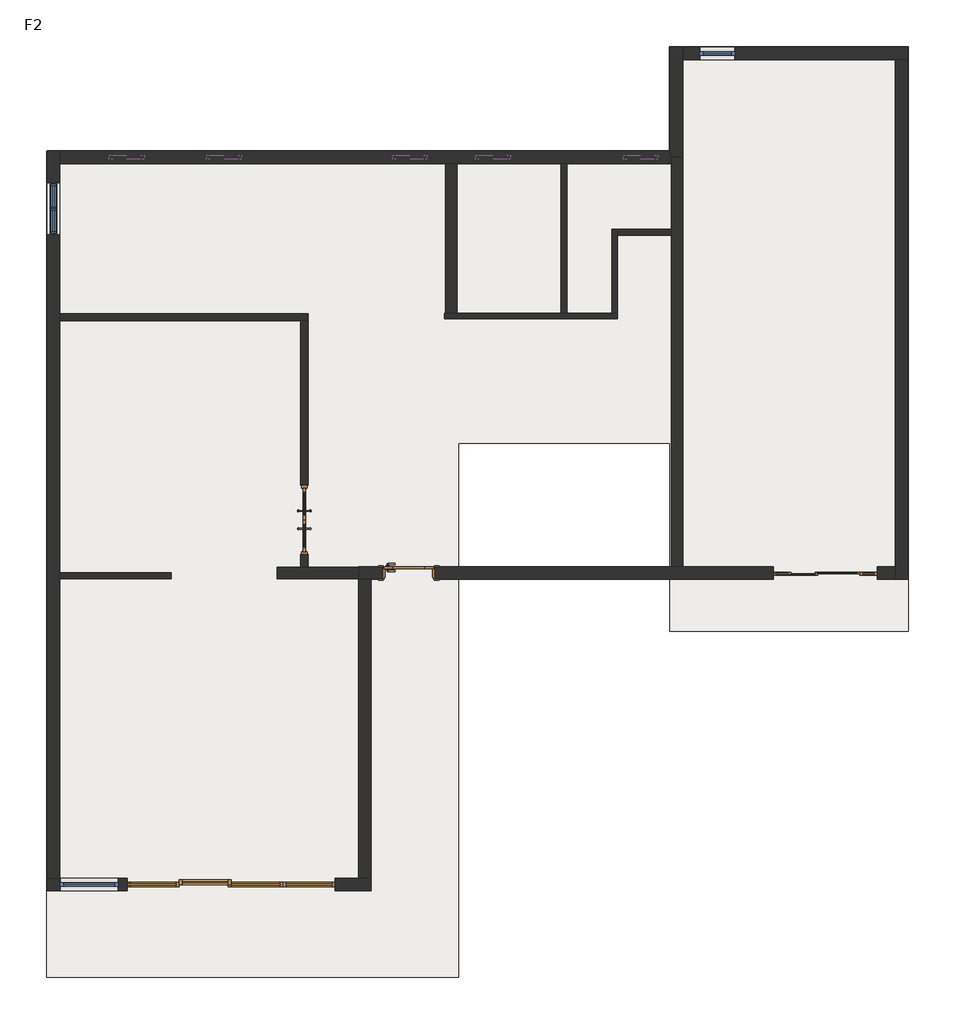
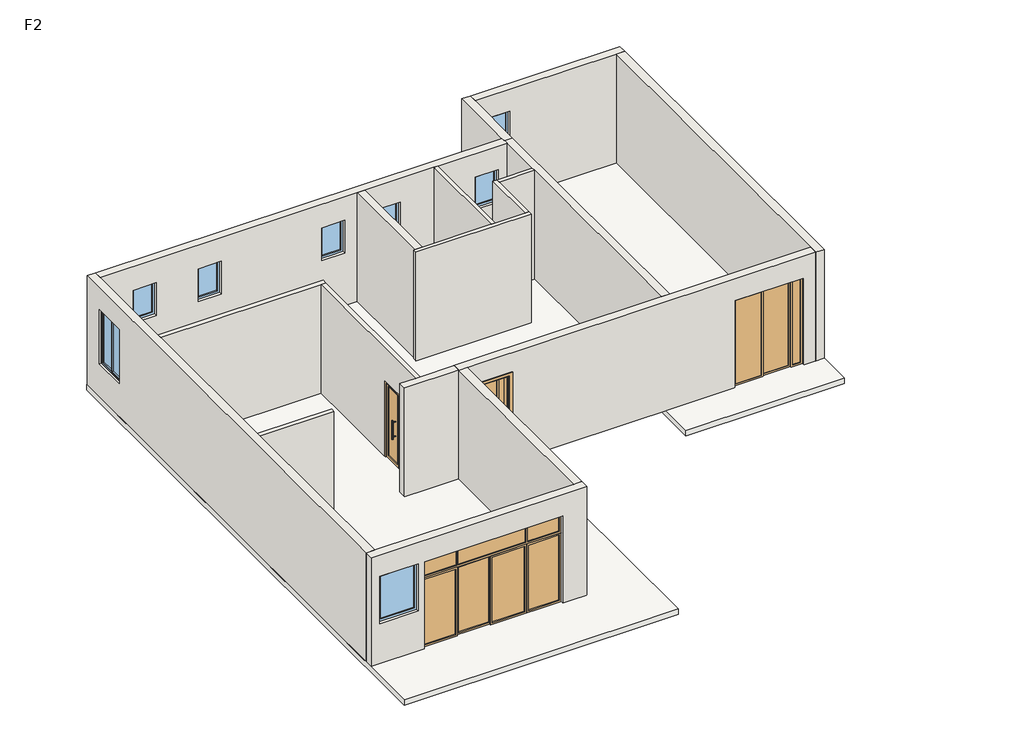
# One storey: 18 walls, 8 windows, 4 doors, 1 slab.
"""IFC4 building model written with IfcOpenShell, lengths in millimetres."""

from ifc_helpers import new_model, si_unit, frame, origin, place, context, project, spatial, polyline, outline, extrude, faceted_brep, transform, mapped, element, save
from components import door_0924_8836e307, door_1200_x_2100mm_28484c29, ym3267_137c07f3, ym3627_ym3624_cbced519, c0615_c0609_9743c050, c0615_c0615_013a5557, c0615_c1023_ef9932f1, c0915_c0915_c0da6e5c

model = new_model("IFC4")

# Units and contexts
model_context = context("Model", 3, world=origin())
ifc_project = project(units=[si_unit("LENGTHUNIT", "METRE", prefix="MILLI")], contexts=[model_context])

# Site, building, storey
site = spatial("IfcSite", under=ifc_project)
building = spatial("IfcBuilding", under=site)
storey = spatial("IfcBuildingStorey", under=building, Name="F2", Elevation=3300.0)

# Doors
placement = place(None, origin())
door_0924_shape = door_0924_8836e307(model_context)
element("IfcDoor", 1, ObjectType="单扇平开门-木门 : 0924", at=placement, inside=storey, context=model_context, shape_type="MappedRepresentation", body=[
    mapped(door_0924_shape, transform((-10695.9782681, -8531.0286905, 3300.0), x_axis=(1.0, 0.0, 0.0), y_axis=(0.0, 1.0, 0.0), z_axis=(0.0, 0.0, 1.0))),
])
door_1200_x_2100mm_shape = door_1200_x_2100mm_28484c29(model_context)
element("IfcDoor", 2, ObjectType="双面嵌板玻璃门 : 1200 x 2100mm", at=placement, inside=storey, context=model_context, shape_type="MappedRepresentation", body=[
    mapped(door_1200_x_2100mm_shape, transform((-12505.9782681, -7611.0286905, 3300.0), x_axis=(0.0, -1.0, 0.0), y_axis=(1.0, 0.0, 0.0), z_axis=(0.0, 0.0, 1.0))),
])
ym3267_shape = ym3267_137c07f3(model_context)
element("IfcDoor", 3, ObjectType="移门-推拉门 : YM3267", at=placement, inside=storey, context=model_context, shape_type="MappedRepresentation", body=[
    mapped(ym3267_shape, transform((-3475.9782681, -8531.0286905, 3300.0), x_axis=(-1.0, 0.0, 0.0), y_axis=(0.0, -1.0, 0.0), z_axis=(0.0, 0.0, 1.0))),
])
ym3627_ym3624_shape = ym3627_ym3624_cbced519(model_context)
element("IfcDoor", 4, ObjectType="YM3627 : YM3624", at=placement, inside=storey, context=model_context, shape_type="MappedRepresentation", body=[
    mapped(ym3627_ym3624_shape, transform((-13775.9782681, -13931.0286905, 3300.0), x_axis=(-1.0, 0.0, 0.0), y_axis=(0.0, -1.0, 0.0), z_axis=(0.0, 0.0, 1.0))),
])

# Slab
element("IfcSlab", 5, ObjectType="常规 - 150mm", at=placement, inside=storey, context=model_context, shape_type="SweptSolid", body=[
    extrude(outline(polyline([(-9835.9782681, -15541.0286905), (-16975.9782681, -15541.0286905), (-16975.9782681, -1221.0286905), (-6175.9782681, -1221.0286905), (-6175.9782681, 588.9713095), (-2035.9782681, 588.9713095), (-2035.9782681, -9541.0286905), (-6165.9782681, -9541.0286905), (-6165.9782681, -6281.0286905), (-9835.9782681, -6281.0286905), (-9835.9782681, -15541.0286905)])), frame((0.0, 0.0, 3150.0), z_axis=(0.0, 0.0, 1.0), x_axis=(1.0, 0.0, 0.0)), (0.0, 0.0, 1.0), 150.0),
])

# Walls
element("IfcWall", 6, ObjectType="内部 - 砌块墙 100", at=placement, inside=storey, context=model_context, shape_type="Brep", body=[
    faceted_brep([(-16745.9782681, -4163.0286905, 3300.0), (-12567.9782681, -4163.0286905, 3300.0), (-12443.9782681, -4163.0286905, 3300.0), (-12443.9782681, -4163.0286905, 6300.0), (-12567.9782681, -4163.0286905, 6300.0), (-16745.9782681, -4163.0286905, 6300.0), (-16745.9782681, -4039.0286905, 3300.0), (-16745.9782681, -4039.0286905, 6300.0), (-12443.9782681, -4039.0286905, 6300.0), (-12443.9782681, -4039.0286905, 3300.0)], [[[0, 1, 2, 3, 4, 5]], [[6, 7, 8, 9]], [[2, 1, 0, 6, 9]], [[5, 4, 3, 8, 7]], [[0, 5, 7, 6]], [[3, 2, 9, 8]]]),
])
element("IfcWall", 7, ObjectType="内部 - 砌块墙 100", at=placement, inside=storey, context=model_context, shape_type="SweptSolid", body=[
    extrude(outline(polyline([(-8431.0286905, 6300.0), (-4163.0286905, 6300.0), (-4163.0286905, 3300.0), (-7011.0286905, 3300.0), (-7011.0286905, 5400.0), (-8211.0286905, 5400.0), (-8211.0286905, 3300.0), (-8431.0286905, 3300.0), (-8431.0286905, 6300.0)])), frame((-12567.9782681, 0.0, 0.0), z_axis=(1.0, 0.0, 0.0), x_axis=(0.0, 1.0, 0.0)), (0.0, 0.0, 1.0), 124.0),
])
element("IfcWall", 8, ObjectType="常规 - 200mm", at=placement, inside=storey, context=model_context, shape_type="Brep", body=[
    faceted_brep([(-11565.9782681, -8431.0286905, 3300.0), (-12443.9782681, -8431.0286905, 3300.0), (-12567.9782681, -8431.0286905, 3300.0), (-12975.9782681, -8431.0286905, 3300.0), (-12975.9782681, -8431.0286905, 6300.0), (-12567.9782681, -8431.0286905, 6300.0), (-12443.9782681, -8431.0286905, 6300.0), (-11565.9782681, -8431.0286905, 6300.0), (-11565.9782681, -8631.0286905, 3300.0), (-11565.9782681, -8631.0286905, 6300.0), (-12975.9782681, -8631.0286905, 6300.0), (-12975.9782681, -8631.0286905, 3300.0)], [[[0, 1, 2, 3, 4, 5, 6, 7]], [[8, 9, 10, 11]], [[3, 2, 1, 0, 8, 11]], [[4, 3, 11, 10]], [[7, 6, 5, 4, 10, 9]], [[0, 7, 9, 8]]]),
])
element("IfcWall", 9, ObjectType="常规 - 100mm 砌体", at=placement, inside=storey, context=model_context, shape_type="SweptSolid", body=[
    extrude(outline(polyline([(-16745.9782681, -8531.0286905), (-14815.9782681, -8531.0286905), (-14815.9782681, -8631.0286905), (-16745.9782681, -8631.0286905), (-16745.9782681, -8531.0286905)])), frame((0.0, 0.0, 3300.0), z_axis=(0.0, 0.0, 1.0), x_axis=(1.0, 0.0, 0.0)), (0.0, 0.0, 1.0), 3000.0),
])
element("IfcWall", 10, ObjectType="常规 - 200mm", at=placement, inside=storey, context=model_context, shape_type="SweptSolid", body=[
    extrude(outline(polyline([(-10055.9782681, -4031.0286905), (-10055.9782681, -1441.0286905), (-9855.9782681, -1441.0286905), (-9855.9782681, -4031.0286905), (-10055.9782681, -4031.0286905)])), frame((0.0, 0.0, 3300.0), z_axis=(0.0, 0.0, 1.0), x_axis=(1.0, 0.0, 0.0)), (0.0, 0.0, 1.0), 3000.0),
])
element("IfcWall", 11, ObjectType="常规 - 100mm 砌体", at=placement, inside=storey, context=model_context, shape_type="Brep", body=[
    faceted_brep([(-10075.9782681, -4131.0286905, 3300.0), (-7075.9782681, -4131.0286905, 3300.0), (-7075.9782681, -4131.0286905, 6300.0), (-10075.9782681, -4131.0286905, 6300.0), (-10075.9782681, -4031.0286905, 3300.0), (-10075.9782681, -4031.0286905, 6300.0), (-8055.9782681, -4031.0286905, 6300.0), (-7955.9782681, -4031.0286905, 6300.0), (-7175.9782681, -4031.0286905, 6300.0), (-7075.9782681, -4031.0286905, 6300.0), (-7075.9782681, -4031.0286905, 3300.0), (-7175.9782681, -4031.0286905, 3300.0), (-7955.9782681, -4031.0286905, 3300.0), (-8055.9782681, -4031.0286905, 3300.0)], [[[0, 1, 2, 3]], [[4, 5, 6, 7, 8, 9, 10, 11, 12, 13]], [[1, 0, 4, 13, 12, 11, 10]], [[3, 2, 9, 8, 7, 6, 5]], [[0, 3, 5, 4]], [[2, 1, 10, 9]]]),
])
element("IfcWall", 12, ObjectType="常规 - 100mm 砌体", at=placement, inside=storey, context=model_context, shape_type="Brep", body=[
    faceted_brep([(-7075.9782681, -4031.0286905, 3300.0), (-7075.9782681, -2681.0286905, 3300.0), (-7075.9782681, -2581.0286905, 3300.0), (-7075.9782681, -2581.0286905, 6300.0), (-7075.9782681, -2681.0286905, 6300.0), (-7075.9782681, -4031.0286905, 6300.0), (-7175.9782681, -4031.0286905, 3300.0), (-7175.9782681, -4031.0286905, 6300.0), (-7175.9782681, -2581.0286905, 6300.0), (-7175.9782681, -2581.0286905, 3300.0)], [[[0, 1, 2, 3, 4, 5]], [[6, 7, 8, 9]], [[2, 1, 0, 6, 9]], [[5, 4, 3, 8, 7]], [[0, 5, 7, 6]], [[3, 2, 9, 8]]]),
])
element("IfcWall", 13, ObjectType="常规 - 100mm 砌体", at=placement, inside=storey, context=model_context, shape_type="SweptSolid", body=[
    extrude(outline(polyline([(-6145.9782681, -2681.0286905), (-7075.9782681, -2681.0286905), (-7075.9782681, -2581.0286905), (-6145.9782681, -2581.0286905), (-6145.9782681, -2681.0286905)])), frame((0.0, 0.0, 3300.0), z_axis=(0.0, 0.0, 1.0), x_axis=(1.0, 0.0, 0.0)), (0.0, 0.0, 1.0), 3000.0),
])
element("IfcWall", 14, ObjectType="常规 - 200mm", at=placement, inside=storey, context=model_context, shape_type="Brep", body=[
    faceted_brep([(-5945.9782681, -8421.0286905, 3300.0), (-5945.9782681, -1331.0286905, 3300.0), (-5945.9782681, -1331.0286905, 6300.0), (-5945.9782681, -8421.0286905, 6300.0), (-6145.9782681, -8421.0286905, 3300.0), (-6145.9782681, -8421.0286905, 6300.0), (-6145.9782681, -2681.0286905, 6300.0), (-6145.9782681, -2581.0286905, 6300.0), (-6145.9782681, -1441.0286905, 6300.0), (-6145.9782681, -1331.0286905, 6300.0), (-6145.9782681, -1331.0286905, 3300.0), (-6145.9782681, -1441.0286905, 3300.0), (-6145.9782681, -2581.0286905, 3300.0), (-6145.9782681, -2681.0286905, 3300.0)], [[[0, 1, 2, 3]], [[4, 5, 6, 7, 8, 9, 10, 11, 12, 13]], [[1, 0, 4, 13, 12, 11, 10]], [[2, 1, 10, 9]], [[3, 2, 9, 8, 7, 6, 5]], [[0, 3, 5, 4]]]),
])
element("IfcWall", 15, ObjectType="常规 - 100mm 砌体", at=placement, inside=storey, context=model_context, shape_type="SweptSolid", body=[
    extrude(outline(polyline([(-7955.9782681, -1441.0286905), (-7955.9782681, -4031.0286905), (-8055.9782681, -4031.0286905), (-8055.9782681, -1441.0286905), (-7955.9782681, -1441.0286905)])), frame((0.0, 0.0, 3300.0), z_axis=(0.0, 0.0, 1.0), x_axis=(1.0, 0.0, 0.0)), (0.0, 0.0, 1.0), 3000.0),
])
element("IfcWall", 16, ObjectType="F2", at=placement, inside=storey, context=model_context, shape_type="Brep", body=[
    faceted_brep([(-16965.9782681, -13821.0286905, 6300.0), (-16745.9782681, -13821.0286905, 6300.0), (-11565.9782681, -13821.0286905, 6300.0), (-11345.9782681, -13821.0286905, 6300.0), (-11345.9782681, -13821.0286905, 3300.0), (-11565.9782681, -13821.0286905, 3300.0), (-11975.9782681, -13821.0286905, 3300.0), (-11975.9782681, -13821.0286905, 5700.0), (-15575.9782681, -13821.0286905, 5700.0), (-15575.9782681, -13821.0286905, 3300.0), (-16745.9782681, -13821.0286905, 3300.0), (-16965.9782681, -13821.0286905, 3300.0), (-16735.9782681, -13821.0286905, 4400.0), (-15735.9782681, -13821.0286905, 4400.0), (-15735.9782681, -13821.0286905, 5700.0), (-16735.9782681, -13821.0286905, 5700.0), (-11345.9782681, -14041.0286905, 6300.0), (-16965.9782681, -14041.0286905, 6300.0), (-16965.9782681, -14041.0286905, 3300.0), (-15575.9782681, -14041.0286905, 3300.0), (-15575.9782681, -14041.0286905, 5700.0), (-11975.9782681, -14041.0286905, 5700.0), (-11975.9782681, -14041.0286905, 3300.0), (-11345.9782681, -14041.0286905, 3300.0), (-16735.9782681, -14041.0286905, 4400.0), (-16735.9782681, -14041.0286905, 5700.0), (-15735.9782681, -14041.0286905, 5700.0), (-15735.9782681, -14041.0286905, 4400.0)], [[[0, 1, 2, 3, 4, 5, 6, 7, 8, 9, 10, 11], [12, 13, 14, 15]], [[16, 17, 18, 19, 20, 21, 22, 23], [24, 25, 26, 27]], [[18, 11, 10, 9, 19]], [[4, 23, 22, 6, 5]], [[3, 2, 1, 0, 17, 16]], [[0, 11, 18, 17]], [[4, 3, 16, 23]], [[21, 7, 6, 22]], [[7, 21, 20, 8]], [[8, 20, 19, 9]], [[25, 24, 12, 15]], [[26, 25, 15, 14]], [[27, 26, 14, 13]], [[24, 27, 13, 12]]]),
])
element("IfcWall", 17, ObjectType="F2", at=placement, inside=storey, context=model_context, shape_type="Brep", body=[
    faceted_brep([(-16745.9782681, -13821.0286905, 3300.0), (-16745.9782681, -8631.0286905, 3300.0), (-16745.9782681, -8531.0286905, 3300.0), (-16745.9782681, -4163.0286905, 3300.0), (-16745.9782681, -4039.0286905, 3300.0), (-16745.9782681, -1441.0286905, 3300.0), (-16745.9782681, -1221.0286905, 3300.0), (-16745.9782681, -1221.0286905, 6300.0), (-16745.9782681, -1441.0286905, 6300.0), (-16745.9782681, -4039.0286905, 6300.0), (-16745.9782681, -4163.0286905, 6300.0), (-16745.9782681, -8531.0286905, 6300.0), (-16745.9782681, -8631.0286905, 6300.0), (-16745.9782681, -13821.0286905, 6300.0), (-16745.9782681, -1771.0286905, 4200.0), (-16745.9782681, -2671.0286905, 4200.0), (-16745.9782681, -2671.0286905, 5700.0), (-16745.9782681, -1771.0286905, 5700.0), (-16965.9782681, -13821.0286905, 3300.0), (-16965.9782681, -13821.0286905, 6300.0), (-16965.9782681, -1221.0286905, 6300.0), (-16965.9782681, -1221.0286905, 3300.0), (-16965.9782681, -1771.0286905, 4200.0), (-16965.9782681, -1771.0286905, 5700.0), (-16965.9782681, -2671.0286905, 5700.0), (-16965.9782681, -2671.0286905, 4200.0)], [[[0, 1, 2, 3, 4, 5, 6, 7, 8, 9, 10, 11, 12, 13], [14, 15, 16, 17]], [[18, 19, 20, 21], [22, 23, 24, 25]], [[6, 5, 4, 3, 2, 1, 0, 18, 21]], [[13, 12, 11, 10, 9, 8, 7, 20, 19]], [[0, 13, 19, 18]], [[7, 6, 21, 20]], [[23, 22, 14, 17]], [[24, 23, 17, 16]], [[25, 24, 16, 15]], [[22, 25, 15, 14]]]),
])
element("IfcWall", 18, ObjectType="F2", at=placement, inside=storey, context=model_context, shape_type="Brep", body=[
    faceted_brep([(-16745.9782681, -1441.0286905, 3300.0), (-10055.9782681, -1441.0286905, 3300.0), (-9855.9782681, -1441.0286905, 3300.0), (-8055.9782681, -1441.0286905, 3300.0), (-7955.9782681, -1441.0286905, 3300.0), (-6145.9782681, -1441.0286905, 3300.0), (-6145.9782681, -1441.0286905, 6300.0), (-7955.9782681, -1441.0286905, 6300.0), (-8055.9782681, -1441.0286905, 6300.0), (-9855.9782681, -1441.0286905, 6300.0), (-10055.9782681, -1441.0286905, 6300.0), (-16745.9782681, -1441.0286905, 6300.0), (-15885.9782681, -1441.0286905, 4750.0), (-15885.9782681, -1441.0286905, 5650.0), (-15285.9782681, -1441.0286905, 5650.0), (-15285.9782681, -1441.0286905, 4750.0), (-14195.9782681, -1441.0286905, 4750.0), (-14195.9782681, -1441.0286905, 5650.0), (-13595.9782681, -1441.0286905, 5650.0), (-13595.9782681, -1441.0286905, 4750.0), (-10975.9782681, -1441.0286905, 4750.0), (-10975.9782681, -1441.0286905, 5650.0), (-10375.9782681, -1441.0286905, 5650.0), (-10375.9782681, -1441.0286905, 4750.0), (-9535.9782681, -1441.0286905, 4750.0), (-9535.9782681, -1441.0286905, 5650.0), (-8935.9782681, -1441.0286905, 5650.0), (-8935.9782681, -1441.0286905, 4750.0), (-6975.9782681, -1441.0286905, 4750.0), (-6975.9782681, -1441.0286905, 5650.0), (-6375.9782681, -1441.0286905, 5650.0), (-6375.9782681, -1441.0286905, 4750.0), (-16745.9782681, -1221.0286905, 3300.0), (-16745.9782681, -1221.0286905, 6300.0), (-6165.9782681, -1221.0286905, 6300.0), (-6165.9782681, -1221.0286905, 3300.0), (-15885.9782681, -1221.0286905, 4750.0), (-15285.9782681, -1221.0286905, 4750.0), (-15285.9782681, -1221.0286905, 5650.0), (-15885.9782681, -1221.0286905, 5650.0), (-14195.9782681, -1221.0286905, 4750.0), (-13595.9782681, -1221.0286905, 4750.0), (-13595.9782681, -1221.0286905, 5650.0), (-14195.9782681, -1221.0286905, 5650.0), (-10975.9782681, -1221.0286905, 4750.0), (-10375.9782681, -1221.0286905, 4750.0), (-10375.9782681, -1221.0286905, 5650.0), (-10975.9782681, -1221.0286905, 5650.0), (-9535.9782681, -1221.0286905, 4750.0), (-8935.9782681, -1221.0286905, 4750.0), (-8935.9782681, -1221.0286905, 5650.0), (-9535.9782681, -1221.0286905, 5650.0), (-6975.9782681, -1221.0286905, 4750.0), (-6375.9782681, -1221.0286905, 4750.0), (-6375.9782681, -1221.0286905, 5650.0), (-6975.9782681, -1221.0286905, 5650.0), (-6165.9782681, -1331.0286905, 3300.0), (-6145.9782681, -1331.0286905, 3300.0), (-6145.9782681, -1331.0286905, 6300.0), (-6165.9782681, -1331.0286905, 6300.0)], [[[0, 1, 2, 3, 4, 5, 6, 7, 8, 9, 10, 11], [12, 13, 14, 15], [16, 17, 18, 19], [20, 21, 22, 23], [24, 25, 26, 27], [28, 29, 30, 31]], [[32, 33, 34, 35], [36, 37, 38, 39], [40, 41, 42, 43], [44, 45, 46, 47], [48, 49, 50, 51], [52, 53, 54, 55]], [[5, 4, 3, 2, 1, 0, 32, 35, 56, 57]], [[11, 10, 9, 8, 7, 6, 58, 59, 34, 33]], [[0, 11, 33, 32]], [[6, 5, 57, 58]], [[57, 56, 59, 58]], [[56, 35, 34, 59]], [[13, 12, 36, 39]], [[14, 13, 39, 38]], [[15, 14, 38, 37]], [[12, 15, 37, 36]], [[17, 16, 40, 43]], [[18, 17, 43, 42]], [[19, 18, 42, 41]], [[16, 19, 41, 40]], [[21, 20, 44, 47]], [[22, 21, 47, 46]], [[23, 22, 46, 45]], [[20, 23, 45, 44]], [[25, 24, 48, 51]], [[26, 25, 51, 50]], [[27, 26, 50, 49]], [[24, 27, 49, 48]], [[29, 28, 52, 55]], [[30, 29, 55, 54]], [[31, 30, 54, 53]], [[28, 31, 53, 52]]]),
])
element("IfcWall", 19, ObjectType="F2", at=placement, inside=storey, context=model_context, shape_type="Brep", body=[
    faceted_brep([(-5945.9782681, -1331.0286905, 3300.0), (-5945.9782681, 358.9713095, 3300.0), (-5945.9782681, 578.9713095, 3300.0), (-5945.9782681, 578.9713095, 6300.0), (-5945.9782681, 358.9713095, 6300.0), (-5945.9782681, -1331.0286905, 6300.0), (-6165.9782681, -1331.0286905, 3300.0), (-6165.9782681, -1331.0286905, 6300.0), (-6165.9782681, -1221.0286905, 6300.0), (-6165.9782681, 578.9713095, 6300.0), (-6165.9782681, 578.9713095, 3300.0), (-6165.9782681, -1221.0286905, 3300.0), (-6145.9782681, -1331.0286905, 3300.0), (-6145.9782681, -1331.0286905, 6300.0)], [[[0, 1, 2, 3, 4, 5]], [[6, 7, 8, 9, 10, 11]], [[2, 1, 0, 12, 6, 11, 10]], [[5, 4, 3, 9, 8, 7, 13]], [[0, 5, 13, 7, 6, 12]], [[3, 2, 10, 9]]]),
])
element("IfcWall", 20, ObjectType="F2", at=placement, inside=storey, context=model_context, shape_type="Brep", body=[
    faceted_brep([(-5945.9782681, 358.9713095, 3300.0), (-2265.9782681, 358.9713095, 3300.0), (-2045.9782681, 358.9713095, 3300.0), (-2045.9782681, 358.9713095, 6300.0), (-2265.9782681, 358.9713095, 6300.0), (-5945.9782681, 358.9713095, 6300.0), (-5045.9782681, 358.9713095, 4200.0), (-5645.9782681, 358.9713095, 4200.0), (-5645.9782681, 358.9713095, 5700.0), (-5045.9782681, 358.9713095, 5700.0), (-5945.9782681, 578.9713095, 3300.0), (-5945.9782681, 578.9713095, 6300.0), (-2045.9782681, 578.9713095, 6300.0), (-2045.9782681, 578.9713095, 3300.0), (-5045.9782681, 578.9713095, 4200.0), (-5045.9782681, 578.9713095, 5700.0), (-5645.9782681, 578.9713095, 5700.0), (-5645.9782681, 578.9713095, 4200.0)], [[[0, 1, 2, 3, 4, 5], [6, 7, 8, 9]], [[10, 11, 12, 13], [14, 15, 16, 17]], [[2, 1, 0, 10, 13]], [[5, 4, 3, 12, 11]], [[0, 5, 11, 10]], [[3, 2, 13, 12]], [[15, 14, 6, 9]], [[16, 15, 9, 8]], [[17, 16, 8, 7]], [[14, 17, 7, 6]]]),
])
element("IfcWall", 21, ObjectType="F2", at=placement, inside=storey, context=model_context, shape_type="Brep", body=[
    faceted_brep([(-2265.9782681, 358.9713095, 3300.0), (-2265.9782681, -8421.0286905, 3300.0), (-2265.9782681, -8641.0286905, 3300.0), (-2265.9782681, -8641.0286905, 6300.0), (-2265.9782681, -8421.0286905, 6300.0), (-2265.9782681, 358.9713095, 6300.0), (-2045.9782681, 358.9713095, 3300.0), (-2045.9782681, 358.9713095, 6300.0), (-2045.9782681, -8641.0286905, 6300.0), (-2045.9782681, -8641.0286905, 3300.0)], [[[0, 1, 2, 3, 4, 5]], [[6, 7, 8, 9]], [[2, 1, 0, 6, 9]], [[5, 4, 3, 8, 7]], [[0, 5, 7, 6]], [[3, 2, 9, 8]]]),
])
element("IfcWall", 22, ObjectType="F2", at=placement, inside=storey, context=model_context, shape_type="Brep", body=[
    faceted_brep([(-11565.9782681, -8421.0286905, 6300.0), (-6145.9782681, -8421.0286905, 6300.0), (-5945.9782681, -8421.0286905, 6300.0), (-2265.9782681, -8421.0286905, 6300.0), (-2265.9782681, -8421.0286905, 3300.0), (-2575.9782681, -8421.0286905, 3300.0), (-2575.9782681, -8421.0286905, 5700.0), (-4375.9782681, -8421.0286905, 5700.0), (-4375.9782681, -8421.0286905, 3300.0), (-5945.9782681, -8421.0286905, 3300.0), (-6145.9782681, -8421.0286905, 3300.0), (-10245.9782681, -8421.0286905, 3300.0), (-10245.9782681, -8421.0286905, 5700.0), (-11145.9782681, -8421.0286905, 5700.0), (-11145.9782681, -8421.0286905, 3300.0), (-11565.9782681, -8421.0286905, 3300.0), (-2265.9782681, -8641.0286905, 6300.0), (-11345.9782681, -8641.0286905, 6300.0), (-11565.9782681, -8641.0286905, 6300.0), (-11565.9782681, -8641.0286905, 3300.0), (-11345.9782681, -8641.0286905, 3300.0), (-11145.9782681, -8641.0286905, 3300.0), (-11145.9782681, -8641.0286905, 5700.0), (-10245.9782681, -8641.0286905, 5700.0), (-10245.9782681, -8641.0286905, 3300.0), (-4375.9782681, -8641.0286905, 3300.0), (-4375.9782681, -8641.0286905, 5700.0), (-2575.9782681, -8641.0286905, 5700.0), (-2575.9782681, -8641.0286905, 3300.0), (-2265.9782681, -8641.0286905, 3300.0), (-11565.9782681, -8631.0286905, 3300.0), (-11565.9782681, -8431.0286905, 3300.0), (-11565.9782681, -8431.0286905, 6300.0), (-11565.9782681, -8631.0286905, 6300.0)], [[[0, 1, 2, 3, 4, 5, 6, 7, 8, 9, 10, 11, 12, 13, 14, 15]], [[16, 17, 18, 19, 20, 21, 22, 23, 24, 25, 26, 27, 28, 29]], [[4, 29, 28, 5]], [[19, 30, 31, 15, 14, 21, 20]], [[8, 25, 24, 11, 10, 9]], [[3, 2, 1, 0, 32, 33, 18, 17, 16]], [[4, 3, 16, 29]], [[0, 15, 31, 30, 19, 18, 33, 32]], [[7, 26, 25, 8]], [[26, 7, 6, 27]], [[27, 6, 5, 28]], [[23, 12, 11, 24]], [[12, 23, 22, 13]], [[13, 22, 21, 14]]]),
])
element("IfcWall", 23, ObjectType="F2", at=placement, inside=storey, context=model_context, shape_type="SweptSolid", body=[
    extrude(outline(polyline([(-11565.9782681, -13821.0286905), (-11565.9782681, -8641.0286905), (-11345.9782681, -8641.0286905), (-11345.9782681, -13821.0286905), (-11565.9782681, -13821.0286905)])), frame((0.0, 0.0, 3300.0), z_axis=(0.0, 0.0, 1.0), x_axis=(1.0, 0.0, 0.0)), (0.0, 0.0, 1.0), 3000.0),
])

# Windows
c0615_c0609_shape = c0615_c0609_9743c050(model_context)
element("IfcWindow", 24, ObjectType="C0615 : C0609", at=placement, inside=storey, context=model_context, shape_type="MappedRepresentation", body=[
    mapped(c0615_c0609_shape, transform((-15585.9782681, -1331.0286905, 3300.0), x_axis=(1.0, 0.0, 0.0), y_axis=(0.0, 1.0, 0.0), z_axis=(0.0, 0.0, 1.0))),
])
element("IfcWindow", 25, ObjectType="C0615 : C0609", at=placement, inside=storey, context=model_context, shape_type="MappedRepresentation", body=[
    mapped(c0615_c0609_shape, transform((-13895.9782681, -1331.0286905, 3300.0), x_axis=(1.0, 0.0, 0.0), y_axis=(0.0, 1.0, 0.0), z_axis=(0.0, 0.0, 1.0))),
])
element("IfcWindow", 26, ObjectType="C0615 : C0609", at=placement, inside=storey, context=model_context, shape_type="MappedRepresentation", body=[
    mapped(c0615_c0609_shape, transform((-10675.9782681, -1331.0286905, 3300.0), x_axis=(1.0, 0.0, 0.0), y_axis=(0.0, 1.0, 0.0), z_axis=(0.0, 0.0, 1.0))),
])
element("IfcWindow", 27, ObjectType="C0615 : C0609", at=placement, inside=storey, context=model_context, shape_type="MappedRepresentation", body=[
    mapped(c0615_c0609_shape, transform((-9235.9782681, -1331.0286905, 3300.0), x_axis=(1.0, 0.0, 0.0), y_axis=(0.0, 1.0, 0.0), z_axis=(0.0, 0.0, 1.0))),
])
element("IfcWindow", 28, ObjectType="C0615 : C0609", at=placement, inside=storey, context=model_context, shape_type="MappedRepresentation", body=[
    mapped(c0615_c0609_shape, transform((-6675.9782681, -1331.0286905, 3300.0), x_axis=(1.0, 0.0, 0.0), y_axis=(0.0, 1.0, 0.0), z_axis=(0.0, 0.0, 1.0))),
])
c0615_c0615_shape = c0615_c0615_013a5557(model_context)
element("IfcWindow", 29, ObjectType="C0615 : C0615", at=placement, inside=storey, context=model_context, shape_type="MappedRepresentation", body=[
    mapped(c0615_c0615_shape, transform((-5345.9782681, 468.9713095, 2750.0), x_axis=(-1.0, 0.0, 0.0), y_axis=(0.0, -1.0, 0.0), z_axis=(0.0, 0.0, 1.0))),
])
c0615_c1023_shape = c0615_c1023_ef9932f1(model_context)
element("IfcWindow", 30, ObjectType="C0615 : C1023", at=placement, inside=storey, context=model_context, shape_type="MappedRepresentation", body=[
    mapped(c0615_c1023_shape, transform((-16235.9782681, -13931.0286905, 2950.0), x_axis=(1.0, 0.0, 0.0), y_axis=(0.0, 1.0, 0.0), z_axis=(0.0, 0.0, 1.0))),
])
c0915_c0915_shape = c0915_c0915_c0da6e5c(model_context)
element("IfcWindow", 31, ObjectType="C0915 : C0915", at=placement, inside=storey, context=model_context, shape_type="MappedRepresentation", body=[
    mapped(c0915_c0915_shape, transform((-16855.9782681, -2221.0286905, 3300.0), x_axis=(0.0, -1.0, 0.0), y_axis=(1.0, 0.0, 0.0), z_axis=(0.0, 0.0, 1.0))),
])

save(model, "model.ifc")
